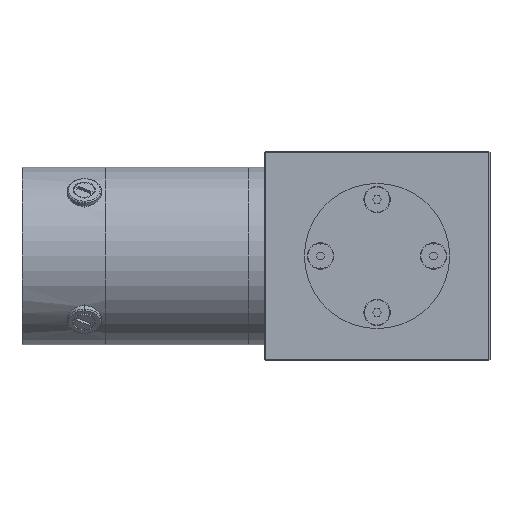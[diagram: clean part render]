
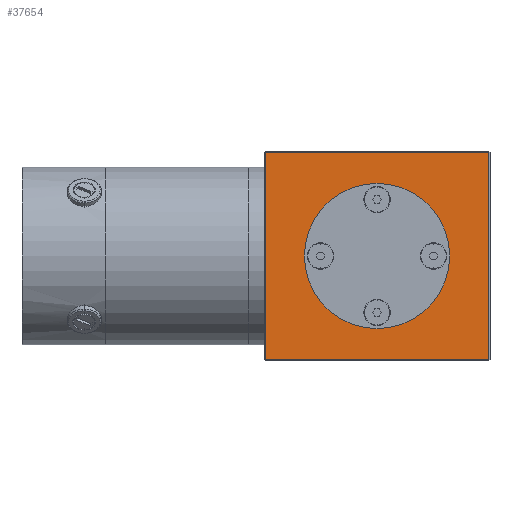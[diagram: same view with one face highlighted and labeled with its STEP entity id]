
A CAD part, left-side view. The second image highlights one B-rep face of the part: STEP entity #37654.
In plain terms, the highlighted planar face has unit normal (-1, 0, 0).
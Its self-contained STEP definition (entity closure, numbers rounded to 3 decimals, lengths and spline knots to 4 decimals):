
#830 = FACE_BOUND ( 'NONE', #35698, .T. ) ;
#996 = DIRECTION ( 'NONE',  ( 0., 0., 1. ) ) ;
#1981 = CARTESIAN_POINT ( 'NONE',  ( 3.7044, 3.8422, 1.1002 ) ) ;
#2011 = CARTESIAN_POINT ( 'NONE',  ( 3.7044, 0.9672, 2.7052 ) ) ;
#6159 = DIRECTION ( 'NONE',  ( 0., -1., 0. ) ) ;
#6888 = CIRCLE ( 'NONE', #41155, 1.125 ) ;
#7953 = PLANE ( 'NONE',  #48497 ) ;
#9433 = EDGE_CURVE ( 'NONE', #29653, #51939, #11539, .T. ) ;
#11539 = CIRCLE ( 'NONE', #49834, 1.125 ) ;
#12655 = DIRECTION ( 'NONE',  ( 0., -1., 0. ) ) ;
#15300 = CARTESIAN_POINT ( 'NONE',  ( 3.7044, 3.8222, 1.1002 ) ) ;
#16831 = DIRECTION ( 'NONE',  ( 0., 0., -1. ) ) ;
#16953 = CARTESIAN_POINT ( 'NONE',  ( 3.7044, 2.0922, 2.7052 ) ) ;
#17900 = EDGE_LOOP ( 'NONE', ( #46524, #39693, #18144, #52232 ) ) ;
#18144 = ORIENTED_EDGE ( 'NONE', *, *, #50874, .T. ) ;
#18479 = CARTESIAN_POINT ( 'NONE',  ( 3.7044, 0.3622, 1.1002 ) ) ;
#20525 = DIRECTION ( 'NONE',  ( 1., 0., 0. ) ) ;
#21399 = DIRECTION ( 'NONE',  ( 0., 1., 0. ) ) ;
#22873 = LINE ( 'NONE', #1981, #51912 ) ;
#24175 = ORIENTED_EDGE ( 'NONE', *, *, #9433, .F. ) ;
#25471 = EDGE_CURVE ( 'NONE', #26883, #29612, #37200, .T. ) ;
#26089 = VERTEX_POINT ( 'NONE', #18479 ) ;
#26883 = VERTEX_POINT ( 'NONE', #34816 ) ;
#28793 = CARTESIAN_POINT ( 'NONE',  ( 3.7044, 2.0922, 2.7052 ) ) ;
#29047 = EDGE_CURVE ( 'NONE', #33377, #26089, #22873, .T. ) ;
#29313 = CARTESIAN_POINT ( 'NONE',  ( 3.7044, 3.2172, 2.7052 ) ) ;
#29612 = VERTEX_POINT ( 'NONE', #37228 ) ;
#29653 = VERTEX_POINT ( 'NONE', #29313 ) ;
#30109 = VECTOR ( 'NONE', #21399, 39.3701 ) ;
#31442 = ORIENTED_EDGE ( 'NONE', *, *, #52626, .F. ) ;
#32025 = VECTOR ( 'NONE', #16831, 39.3701 ) ;
#33377 = VERTEX_POINT ( 'NONE', #15300 ) ;
#34816 = CARTESIAN_POINT ( 'NONE',  ( 3.7044, 0.3622, 4.3102 ) ) ;
#35698 = EDGE_LOOP ( 'NONE', ( #31442, #24175 ) ) ;
#36928 = CARTESIAN_POINT ( 'NONE',  ( 3.7044, 3.8422, 4.3302 ) ) ;
#37200 = LINE ( 'NONE', #50085, #30109 ) ;
#37228 = CARTESIAN_POINT ( 'NONE',  ( 3.7044, 3.8222, 4.3102 ) ) ;
#37654 = ADVANCED_FACE ( 'NONE', ( #46257, #830 ), #7953, .F. ) ;
#37769 = DIRECTION ( 'NONE',  ( -1., 0., 0. ) ) ;
#39693 = ORIENTED_EDGE ( 'NONE', *, *, #29047, .T. ) ;
#40637 = VECTOR ( 'NONE', #996, 39.3701 ) ;
#41155 = AXIS2_PLACEMENT_3D ( 'NONE', #16953, #50171, #49995 ) ;
#42130 = CARTESIAN_POINT ( 'NONE',  ( 3.7044, 3.8222, 4.3302 ) ) ;
#43036 = LINE ( 'NONE', #42130, #32025 ) ;
#45631 = DIRECTION ( 'NONE',  ( 0., 1., 0. ) ) ;
#46257 = FACE_OUTER_BOUND ( 'NONE', #17900, .T. ) ;
#46524 = ORIENTED_EDGE ( 'NONE', *, *, #47709, .T. ) ;
#47228 = CARTESIAN_POINT ( 'NONE',  ( 3.7044, 0.3622, 4.3302 ) ) ;
#47709 = EDGE_CURVE ( 'NONE', #29612, #33377, #43036, .T. ) ;
#48497 = AXIS2_PLACEMENT_3D ( 'NONE', #36928, #20525, #45631 ) ;
#49834 = AXIS2_PLACEMENT_3D ( 'NONE', #28793, #37769, #12655 ) ;
#49995 = DIRECTION ( 'NONE',  ( 0., -1., 0. ) ) ;
#50085 = CARTESIAN_POINT ( 'NONE',  ( 3.7044, 3.8422, 4.3102 ) ) ;
#50171 = DIRECTION ( 'NONE',  ( -1., 0., 0. ) ) ;
#50874 = EDGE_CURVE ( 'NONE', #26089, #26883, #51618, .T. ) ;
#51618 = LINE ( 'NONE', #47228, #40637 ) ;
#51912 = VECTOR ( 'NONE', #6159, 39.3701 ) ;
#51939 = VERTEX_POINT ( 'NONE', #2011 ) ;
#52232 = ORIENTED_EDGE ( 'NONE', *, *, #25471, .T. ) ;
#52626 = EDGE_CURVE ( 'NONE', #51939, #29653, #6888, .T. ) ;
